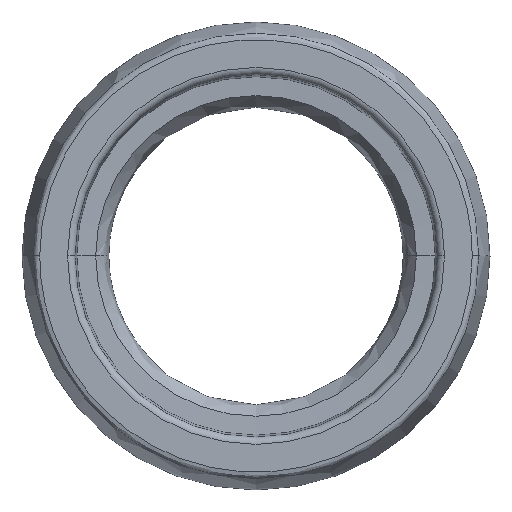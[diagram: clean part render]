
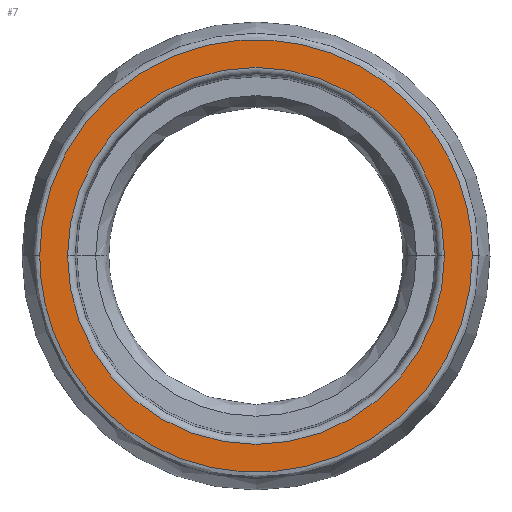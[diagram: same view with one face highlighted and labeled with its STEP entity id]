
A CAD part, top view. The second image highlights one B-rep face of the part: STEP entity #7.
In plain terms, the highlighted planar face has unit normal (0, 0, 1).
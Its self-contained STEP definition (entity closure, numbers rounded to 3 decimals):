
#7 = ADVANCED_FACE ( 'NONE', ( #254, #92 ), #143, .F. ) ;
#12 = AXIS2_PLACEMENT_3D ( 'NONE', #753, #639, #760 ) ;
#29 = CARTESIAN_POINT ( 'NONE',  ( 14.709, 29.419, 3.175 ) ) ;
#30 = ORIENTED_EDGE ( 'NONE', *, *, #729, .F. ) ;
#43 = ORIENTED_EDGE ( 'NONE', *, *, #121, .T. ) ;
#55 =( BOUNDED_CURVE ( )  B_SPLINE_CURVE ( 3, ( #353, #603, #730, #529 ),
 .UNSPECIFIED., .F., .T. ) 
 B_SPLINE_CURVE_WITH_KNOTS ( ( 4, 4 ),
 ( 0., 1. ),
 .UNSPECIFIED. ) 
 CURVE ( )  GEOMETRIC_REPRESENTATION_ITEM ( )  RATIONAL_B_SPLINE_CURVE ( ( 1., 0.333, 0.333, 1. ) ) 
 REPRESENTATION_ITEM ( '' )  );
#63 = CARTESIAN_POINT ( 'NONE',  ( -14.709, 0., 3.175 ) ) ;
#64 = AXIS2_PLACEMENT_3D ( 'NONE', #329, #382, #258 ) ;
#84 = AXIS2_PLACEMENT_3D ( 'NONE', #356, #344, #292 ) ;
#92 = FACE_BOUND ( 'NONE', #428, .T. ) ;
#116 = CIRCLE ( 'NONE', #12, 12.82 ) ;
#121 = EDGE_CURVE ( 'NONE', #357, #484, #116, .T. ) ;
#130 = CARTESIAN_POINT ( 'NONE',  ( -12.82, 0., 3.175 ) ) ;
#143 = PLANE ( 'NONE',  #64 ) ;
#170 = VERTEX_POINT ( 'NONE', #708 ) ;
#254 = FACE_OUTER_BOUND ( 'NONE', #367, .T. ) ;
#258 = DIRECTION ( 'NONE',  ( -1., 0., 0. ) ) ;
#286 = ORIENTED_EDGE ( 'NONE', *, *, #750, .T. ) ;
#292 = DIRECTION ( 'NONE',  ( -1., 0., 0. ) ) ;
#329 = CARTESIAN_POINT ( 'NONE',  ( 0., 14.992, 3.175 ) ) ;
#344 = DIRECTION ( 'NONE',  ( 0., 0., -1. ) ) ;
#353 = CARTESIAN_POINT ( 'NONE',  ( 14.709, 0., 3.175 ) ) ;
#356 = CARTESIAN_POINT ( 'NONE',  ( 0., 0., 3.175 ) ) ;
#357 = VERTEX_POINT ( 'NONE', #439 ) ;
#367 = EDGE_LOOP ( 'NONE', ( #30, #665 ) ) ;
#371 =( BOUNDED_CURVE ( )  B_SPLINE_CURVE ( 3, ( #483, #740, #29, #578 ),
 .UNSPECIFIED., .F., .T. ) 
 B_SPLINE_CURVE_WITH_KNOTS ( ( 4, 4 ),
 ( 0., 1. ),
 .UNSPECIFIED. ) 
 CURVE ( )  GEOMETRIC_REPRESENTATION_ITEM ( )  RATIONAL_B_SPLINE_CURVE ( ( 1., 0.333, 0.333, 1. ) ) 
 REPRESENTATION_ITEM ( '' )  );
#382 = DIRECTION ( 'NONE',  ( 0., 0., -1. ) ) ;
#428 = EDGE_LOOP ( 'NONE', ( #286, #43 ) ) ;
#439 = CARTESIAN_POINT ( 'NONE',  ( 12.82, 0., 3.175 ) ) ;
#483 = CARTESIAN_POINT ( 'NONE',  ( -14.709, 0., 3.175 ) ) ;
#484 = VERTEX_POINT ( 'NONE', #130 ) ;
#503 = VERTEX_POINT ( 'NONE', #63 ) ;
#529 = CARTESIAN_POINT ( 'NONE',  ( -14.709, 0., 3.175 ) ) ;
#578 = CARTESIAN_POINT ( 'NONE',  ( 14.709, 0., 3.175 ) ) ;
#579 = EDGE_CURVE ( 'NONE', #503, #170, #371, .T. ) ;
#592 = CIRCLE ( 'NONE', #84, 12.82 ) ;
#603 = CARTESIAN_POINT ( 'NONE',  ( 14.709, -29.419, 3.175 ) ) ;
#639 = DIRECTION ( 'NONE',  ( 0., 0., -1. ) ) ;
#665 = ORIENTED_EDGE ( 'NONE', *, *, #579, .F. ) ;
#708 = CARTESIAN_POINT ( 'NONE',  ( 14.709, 0., 3.175 ) ) ;
#729 = EDGE_CURVE ( 'NONE', #170, #503, #55, .T. ) ;
#730 = CARTESIAN_POINT ( 'NONE',  ( -14.709, -29.419, 3.175 ) ) ;
#740 = CARTESIAN_POINT ( 'NONE',  ( -14.709, 29.419, 3.175 ) ) ;
#750 = EDGE_CURVE ( 'NONE', #484, #357, #592, .T. ) ;
#753 = CARTESIAN_POINT ( 'NONE',  ( 0., 0., 3.175 ) ) ;
#760 = DIRECTION ( 'NONE',  ( -1., 0., 0. ) ) ;
